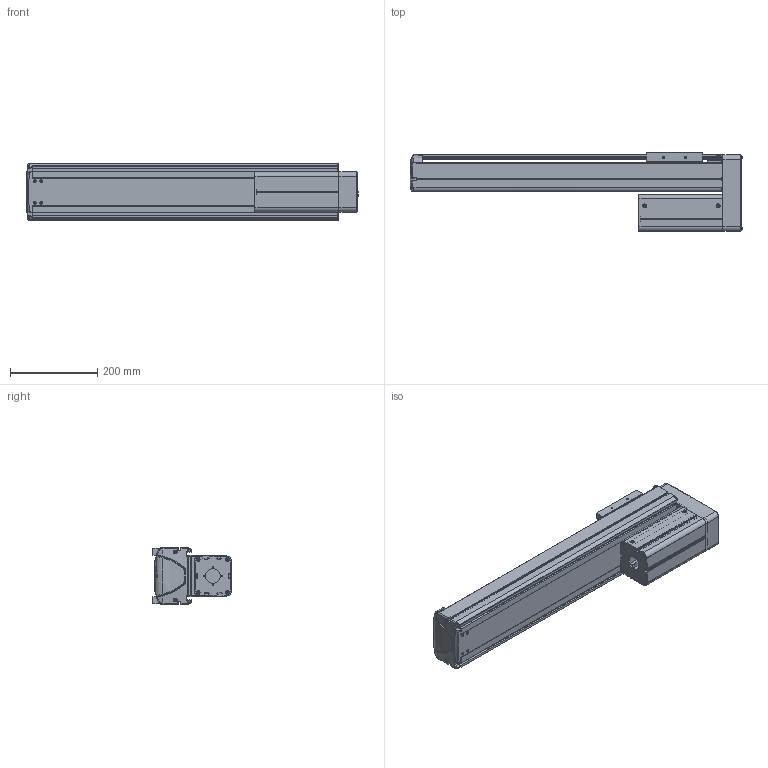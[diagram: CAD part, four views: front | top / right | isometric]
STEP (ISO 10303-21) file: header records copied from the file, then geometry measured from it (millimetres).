
FILE_DESCRIPTION((''),'2;1');
FILE_NAME('BE30E-UU-M_B-50_IGS_PRT','2017-06-17T',(' '),(''),'PRO/ENGINEER BY PARAMETRIC TECHNOLOGY CORPORATION, 2015030','PRO/ENGINEER BY PARAMETRIC TECHNOLOGY CORPORATION, 2015030','');
FILE_SCHEMA(('CONFIG_CONTROL_DESIGN'));
Length unit declared in the file: millimetre
Products named in the file (1): BE30E-UU-M_B-50_IGS_PRT
Bounding box: 761.9 x 180 x 130 mm (x, y, z)
Volume: 2800839.4 mm3; surface area: 1210490.7 mm2
Topology: 2 solids, 111 shells, 1997 faces, 5375 edges, 3482 vertices
Faces by surface type: plane 994, cylinder 805, cone 107, torus 39, bspline 28, sphere 24
Entity records: 64542 total; most frequent: CARTESIAN_POINT 13613, DIRECTION 10765, ORIENTED_EDGE 10254, EDGE_CURVE 5337, AXIS2_PLACEMENT_3D 3771, VERTEX_POINT 3482, VECTOR 3223, LINE 3223
